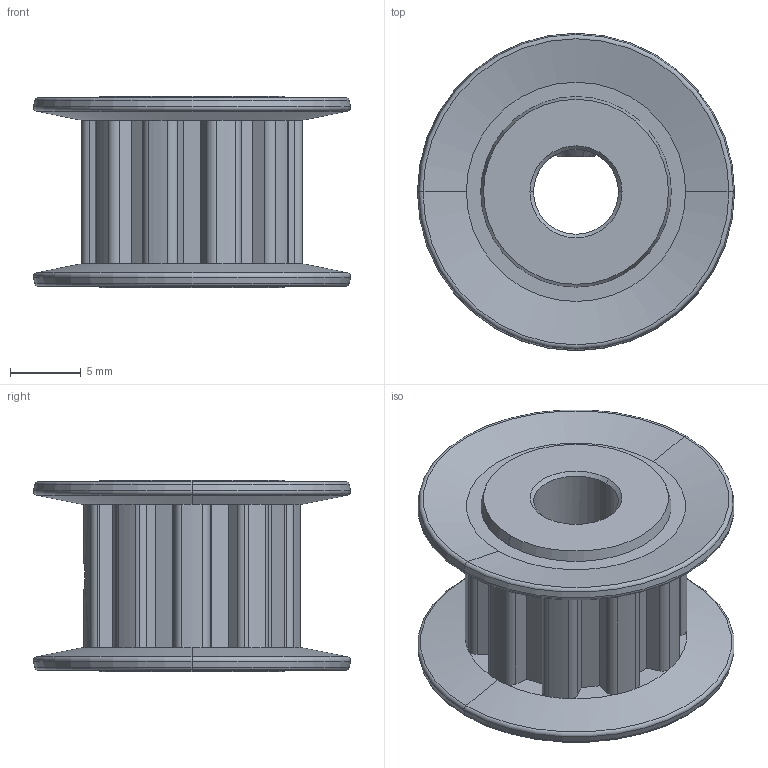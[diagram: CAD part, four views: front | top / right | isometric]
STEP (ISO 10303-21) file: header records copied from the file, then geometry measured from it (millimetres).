
FILE_DESCRIPTION (( 'STEP AP203' ), '1' );
FILE_NAME ('615384 assembly.STEP', '2016-10-04T20:29:51', ( '' ), ( '' ), 'SwSTEP 2.0', 'SolidWorks 2014', '' );
FILE_SCHEMA (( 'CONFIG_CONTROL_DESIGN' ));
Length unit declared in the file: inch
Products named in the file (3): 632134_91375A436; 615384; 615384 assembly
Assembly tree (2 placements, depth 2):
  615384 assembly
    615384
    632134_91375A436
Bounding box: 22.43 x 22.43 x 13.55 mm (x, y, z)
Volume: 2232.8 mm3; surface area: 2397.4 mm2
Topology: 2 solids, 2 shells, 212 faces, 541 edges, 331 vertices
Faces by surface type: cylinder 84, plane 70, cone 36, bspline 14, torus 8
Entity records: 15591 total; most frequent: CARTESIAN_POINT 10543, ORIENTED_EDGE 1074, DIRECTION 939, EDGE_CURVE 537, AXIS2_PLACEMENT_3D 363, VERTEX_POINT 331, EDGE_LOOP 218, VECTOR 213
